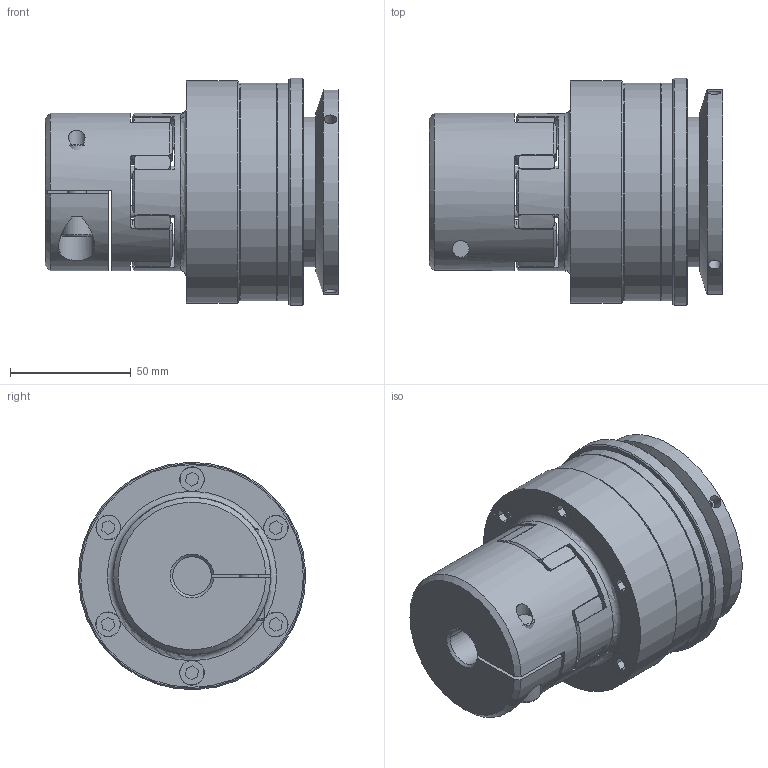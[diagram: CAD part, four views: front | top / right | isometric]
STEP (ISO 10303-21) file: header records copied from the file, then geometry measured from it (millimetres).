
FILE_DESCRIPTION( ( 'Unknown' ), '1' );
FILE_NAME( 'C:/Users/skarpstein/Desktop/Korrigierte 3D Modelle/KBK-E-KP/KBK EKP-28-121.stp', 'Unknown', ( 'Unknown' ), ( 'Unknown' ), 'PSStep 16.0.42', 'Unknown', ' ' );
FILE_SCHEMA( ( 'AUTOMOTIVE_DESIGN { 1 0 10303 214 1 1 1 1 }' ) );
Length unit declared in the file: millimetre
Products named in the file (27): Zylinderschraube DIN 912_0; ball_bearing_-_6008_0_01; ball_bearing_-_6008_0_02; ball_bearing_-_6008_0_03; Stellring 80; Flansch 80; a_40; Zahnkranz EK28_Standard; Assem2_0; Assem1_1; Druckring 80; KBK L-P-80 Grundkörper; Elastomerflansch 28; Assem1; KBE 2 - 28_Nabe; ISO EN DIN 4762 M8x30
Assembly tree (31 placements, depth 4):
  Assem1
    KBE 2 - 28_Nabe
    ISO EN DIN 4762 M8x30
    Stellring 80
      Stellring 80
    Druckring 80
      Druckring 80
    Flansch 80
      Flansch 80
    a_40
      a_40
    Zahnkranz EK28_Standard
      Zahnkranz EK28_Standard
    Elastomerflansch 28
      Elastomerflansch 28
    KBK L-P-80 Grundkörper
      KBK L-P-80 Grundkörper
    Assem2_0
      ball_bearing_-_6008_0_01
        ball_bearing_-_6008_0_01
      ball_bearing_-_6008_0_02
        ball_bearing_-_6008_0_02
      ball_bearing_-_6008_0_03
        ball_bearing_-_6008_0_03
    Assem1_1  x6
      Zylinderschraube DIN 912_0
        Zylinderschraube DIN 912_0
Bounding box: 121.25 x 93.92 x 93.92 mm (x, y, z)
Volume: 480386.7 mm3; surface area: 147062.9 mm2
Topology: 18 solids, 18 shells, 443 faces, 1010 edges, 645 vertices
Faces by surface type: plane 166, cylinder 150, cone 105, torus 22
Full cylindrical faces by diameter (mm): 2.5 x2, 3.242 x3, 4.917 x6, 5 x12, 5.2 x3, 6 x6, 6.2 x6, 6.8 x1, 7 x1, 8 x2, 9 x1, 10 x6, 10.2 x6, 13 x1, 16 x1, 30 x3, 37.5 x1, 40 x3, 49.2 x2, 59.1 x2, 61 x1, 62 x2, 65 x2, 68 x3, 70 x1, 85 x1, 87 x1, 90 x2, 92 x1, 94 x1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
Entity records: 14250 total; most frequent: CARTESIAN_POINT 2674, DIRECTION 1856, ORIENTED_EDGE 1422, AXIS2_PLACEMENT_3D 853, EDGE_CURVE 711, EDGE_LOOP 566, VERTEX_POINT 509, FACE_OUTER_BOUND 462
